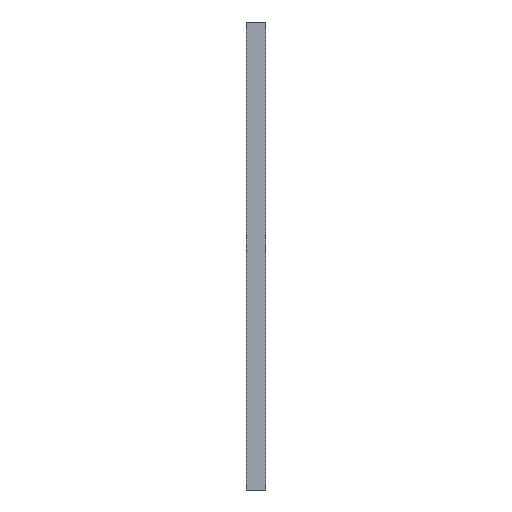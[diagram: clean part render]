
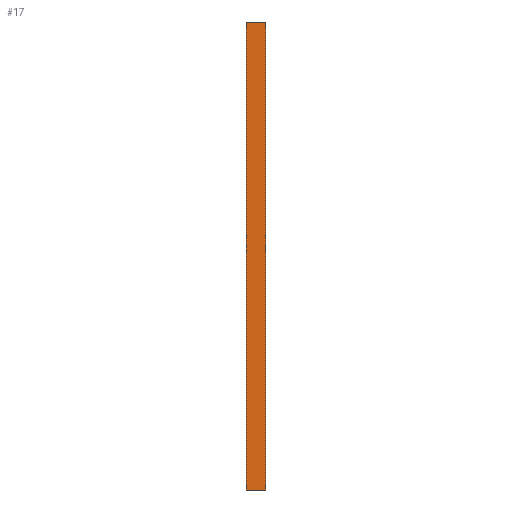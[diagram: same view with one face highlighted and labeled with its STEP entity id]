
A CAD part, left-side view. The second image highlights one B-rep face of the part: STEP entity #17.
In plain terms, the highlighted planar face has unit normal (-1, 0, 0).
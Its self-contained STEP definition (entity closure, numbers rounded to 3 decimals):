
#17 = ADVANCED_FACE('',(#18),#32,.F.);
#18 = FACE_BOUND('',#19,.F.);
#19 = EDGE_LOOP('',(#20,#55,#83,#111));
#20 = ORIENTED_EDGE('',*,*,#21,.F.);
#21 = EDGE_CURVE('',#22,#24,#26,.T.);
#22 = VERTEX_POINT('',#23);
#23 = CARTESIAN_POINT('',(-58.4,3.,281.6));
#24 = VERTEX_POINT('',#25);
#25 = CARTESIAN_POINT('',(-58.4,3.,354.4));
#26 = SURFACE_CURVE('',#27,(#31,#43),.PCURVE_S1.);
#27 = LINE('',#28,#29);
#28 = CARTESIAN_POINT('',(-58.4,3.,281.6));
#29 = VECTOR('',#30,1.);
#30 = DIRECTION('',(0.,0.,1.));
#31 = PCURVE('',#32,#37);
#32 = PLANE('',#33);
#33 = AXIS2_PLACEMENT_3D('',#34,#35,#36);
#34 = CARTESIAN_POINT('',(-58.4,3.,281.6));
#35 = DIRECTION('',(1.,0.,0.));
#36 = DIRECTION('',(0.,0.,1.));
#37 = DEFINITIONAL_REPRESENTATION('',(#38),#42);
#38 = LINE('',#39,#40);
#39 = CARTESIAN_POINT('',(0.,0.));
#40 = VECTOR('',#41,1.);
#41 = DIRECTION('',(1.,0.));
#42 = ( GEOMETRIC_REPRESENTATION_CONTEXT(2) 
PARAMETRIC_REPRESENTATION_CONTEXT() REPRESENTATION_CONTEXT('2D SPACE',''
  ) );
#43 = PCURVE('',#44,#49);
#44 = PLANE('',#45);
#45 = AXIS2_PLACEMENT_3D('',#46,#47,#48);
#46 = CARTESIAN_POINT('',(-58.4,3.,281.6));
#47 = DIRECTION('',(0.,1.,0.));
#48 = DIRECTION('',(0.,0.,1.));
#49 = DEFINITIONAL_REPRESENTATION('',(#50),#54);
#50 = LINE('',#51,#52);
#51 = CARTESIAN_POINT('',(0.,0.));
#52 = VECTOR('',#53,1.);
#53 = DIRECTION('',(1.,0.));
#54 = ( GEOMETRIC_REPRESENTATION_CONTEXT(2) 
PARAMETRIC_REPRESENTATION_CONTEXT() REPRESENTATION_CONTEXT('2D SPACE',''
  ) );
#55 = ORIENTED_EDGE('',*,*,#56,.T.);
#56 = EDGE_CURVE('',#22,#57,#59,.T.);
#57 = VERTEX_POINT('',#58);
#58 = CARTESIAN_POINT('',(-58.4,6.,281.6));
#59 = SURFACE_CURVE('',#60,(#64,#71),.PCURVE_S1.);
#60 = LINE('',#61,#62);
#61 = CARTESIAN_POINT('',(-58.4,3.,281.6));
#62 = VECTOR('',#63,1.);
#63 = DIRECTION('',(0.,1.,0.));
#64 = PCURVE('',#32,#65);
#65 = DEFINITIONAL_REPRESENTATION('',(#66),#70);
#66 = LINE('',#67,#68);
#67 = CARTESIAN_POINT('',(0.,0.));
#68 = VECTOR('',#69,1.);
#69 = DIRECTION('',(0.,-1.));
#70 = ( GEOMETRIC_REPRESENTATION_CONTEXT(2) 
PARAMETRIC_REPRESENTATION_CONTEXT() REPRESENTATION_CONTEXT('2D SPACE',''
  ) );
#71 = PCURVE('',#72,#77);
#72 = PLANE('',#73);
#73 = AXIS2_PLACEMENT_3D('',#74,#75,#76);
#74 = CARTESIAN_POINT('',(-58.4,3.,281.6));
#75 = DIRECTION('',(0.,0.,1.));
#76 = DIRECTION('',(1.,0.,0.));
#77 = DEFINITIONAL_REPRESENTATION('',(#78),#82);
#78 = LINE('',#79,#80);
#79 = CARTESIAN_POINT('',(0.,0.));
#80 = VECTOR('',#81,1.);
#81 = DIRECTION('',(0.,1.));
#82 = ( GEOMETRIC_REPRESENTATION_CONTEXT(2) 
PARAMETRIC_REPRESENTATION_CONTEXT() REPRESENTATION_CONTEXT('2D SPACE',''
  ) );
#83 = ORIENTED_EDGE('',*,*,#84,.T.);
#84 = EDGE_CURVE('',#57,#85,#87,.T.);
#85 = VERTEX_POINT('',#86);
#86 = CARTESIAN_POINT('',(-58.4,6.,354.4));
#87 = SURFACE_CURVE('',#88,(#92,#99),.PCURVE_S1.);
#88 = LINE('',#89,#90);
#89 = CARTESIAN_POINT('',(-58.4,6.,281.6));
#90 = VECTOR('',#91,1.);
#91 = DIRECTION('',(0.,0.,1.));
#92 = PCURVE('',#32,#93);
#93 = DEFINITIONAL_REPRESENTATION('',(#94),#98);
#94 = LINE('',#95,#96);
#95 = CARTESIAN_POINT('',(0.,-3.));
#96 = VECTOR('',#97,1.);
#97 = DIRECTION('',(1.,0.));
#98 = ( GEOMETRIC_REPRESENTATION_CONTEXT(2) 
PARAMETRIC_REPRESENTATION_CONTEXT() REPRESENTATION_CONTEXT('2D SPACE',''
  ) );
#99 = PCURVE('',#100,#105);
#100 = PLANE('',#101);
#101 = AXIS2_PLACEMENT_3D('',#102,#103,#104);
#102 = CARTESIAN_POINT('',(-58.4,6.,281.6));
#103 = DIRECTION('',(0.,1.,0.));
#104 = DIRECTION('',(0.,0.,1.));
#105 = DEFINITIONAL_REPRESENTATION('',(#106),#110);
#106 = LINE('',#107,#108);
#107 = CARTESIAN_POINT('',(0.,0.));
#108 = VECTOR('',#109,1.);
#109 = DIRECTION('',(1.,0.));
#110 = ( GEOMETRIC_REPRESENTATION_CONTEXT(2) 
PARAMETRIC_REPRESENTATION_CONTEXT() REPRESENTATION_CONTEXT('2D SPACE',''
  ) );
#111 = ORIENTED_EDGE('',*,*,#112,.F.);
#112 = EDGE_CURVE('',#24,#85,#113,.T.);
#113 = SURFACE_CURVE('',#114,(#118,#125),.PCURVE_S1.);
#114 = LINE('',#115,#116);
#115 = CARTESIAN_POINT('',(-58.4,3.,354.4));
#116 = VECTOR('',#117,1.);
#117 = DIRECTION('',(0.,1.,0.));
#118 = PCURVE('',#32,#119);
#119 = DEFINITIONAL_REPRESENTATION('',(#120),#124);
#120 = LINE('',#121,#122);
#121 = CARTESIAN_POINT('',(72.8,0.));
#122 = VECTOR('',#123,1.);
#123 = DIRECTION('',(0.,-1.));
#124 = ( GEOMETRIC_REPRESENTATION_CONTEXT(2) 
PARAMETRIC_REPRESENTATION_CONTEXT() REPRESENTATION_CONTEXT('2D SPACE',''
  ) );
#125 = PCURVE('',#126,#131);
#126 = PLANE('',#127);
#127 = AXIS2_PLACEMENT_3D('',#128,#129,#130);
#128 = CARTESIAN_POINT('',(-58.4,3.,354.4));
#129 = DIRECTION('',(0.,0.,1.));
#130 = DIRECTION('',(1.,0.,0.));
#131 = DEFINITIONAL_REPRESENTATION('',(#132),#136);
#132 = LINE('',#133,#134);
#133 = CARTESIAN_POINT('',(0.,0.));
#134 = VECTOR('',#135,1.);
#135 = DIRECTION('',(0.,1.));
#136 = ( GEOMETRIC_REPRESENTATION_CONTEXT(2) 
PARAMETRIC_REPRESENTATION_CONTEXT() REPRESENTATION_CONTEXT('2D SPACE',''
  ) );
